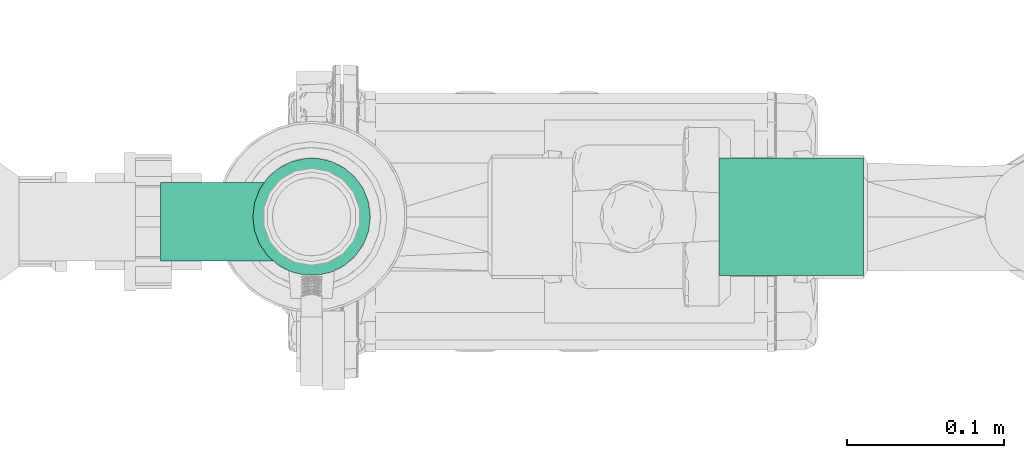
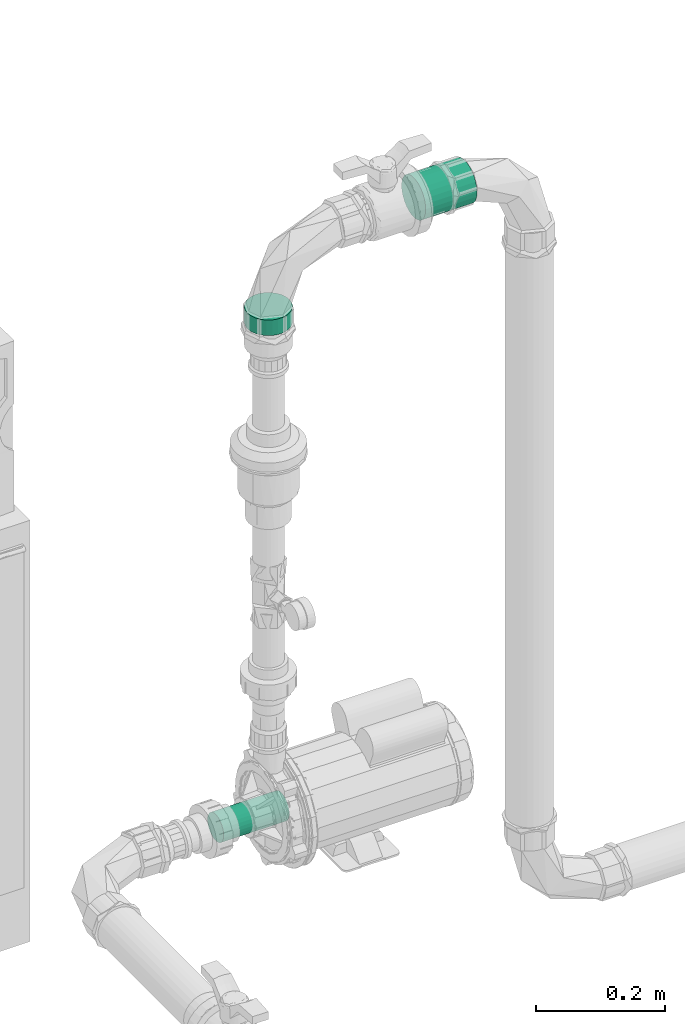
# One storey, part 68 of 166: 3 flow segments.
"""IFC2X3 building model written with IfcOpenShell, lengths in metres."""

from ifc_helpers import new_model, entity, si_unit, converted_unit, direction, frame, frame_2d, origin, origin_2d_with_axis, place, context, subcontext, project, spatial, circle, extrude, type_object, element, save


model = new_model("IFC2X3")

# Units and contexts
model_context = context("Model", 3, precision=1e-05, world=origin(), true_north=direction((6.123233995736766e-17, 1.0)))
body_context = subcontext(model_context, "Body", "Model", "MODEL_VIEW")
ifc_project = project(units=[si_unit("LENGTHUNIT", "METRE"), converted_unit("PLANEANGLEUNIT", "DEGREE", entity("IfcPlaneAngleMeasure", 0.017453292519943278), si_unit("PLANEANGLEUNIT", "RADIAN"), dimensions=[0, 0, 0, 0, 0, 0, 0]), si_unit("AREAUNIT", "SQUARE_METRE")], contexts=[model_context])

# Site, building, storey
site_placement = place(None, origin())
site = spatial("IfcSite", under=ifc_project, at=site_placement, Name="Default", CompositionType="ELEMENT")
building_placement = place(site_placement, origin())
building = spatial("IfcBuilding", under=site, at=building_placement, Name="CASA DE ACOLHIDA PARA IDOSOS", CompositionType="ELEMENT")
storey_placement = place(building_placement, frame((0.0, 0.0, -1.7499999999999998)))
storey = spatial("IfcBuildingStorey", under=building, at=storey_placement, Name="IMPLANTAÇÃO DRENAGEM", CompositionType="ELEMENT", Elevation=-1.7499999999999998)

# Flow segments
pipe_segment_type = type_object("IfcPipeSegmentType", Name="Tipos de tubos:AF_Tubo Marrom Soldável", PredefinedType="NOTDEFINED")
flow_segment_1_placement = place(storey_placement, origin())
element("IfcFlowSegment", 1, at=flow_segment_1_placement, inside=storey, type_object=pipe_segment_type, Name="Tipos de tubos:AF_Tubo Marrom Soldável", ObjectType="Tipos de tubos:AF_Tubo Marrom Soldável", context=body_context, shape_type="SweptSolid", body=[
    extrude(circle(Radius=0.025, at=frame_2d((0.0, -2.707167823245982e-16), x_axis=(1.0, 0.0))), frame((-60.86715026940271, 7.048917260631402, 0.13340000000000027), z_axis=(1.0, 0.0, 0.0), x_axis=(0.0, 1.0, 0.0)), (0.0, 0.0, 1.0), 0.11783727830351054),
])
flow_segment_2_placement = place(storey_placement, origin())
element("IfcFlowSegment", 2, at=flow_segment_2_placement, inside=storey, type_object=pipe_segment_type, Name="Tipos de tubos:AF_Tubo Marrom Soldável", ObjectType="Tipos de tubos:AF_Tubo Marrom Soldável", context=body_context, shape_type="SweptSolid", body=[
    extrude(circle(Radius=0.037500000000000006, at=origin_2d_with_axis()), frame((-60.51065765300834, 7.052060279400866, 1.1999999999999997), z_axis=(1.0, 0.0, 0.0), x_axis=(0.0, -1.0, 0.0)), (0.0, 0.0, 1.0), 0.09213466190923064),
])
flow_segment_3_placement = place(storey_placement, origin())
element("IfcFlowSegment", 3, at=flow_segment_3_placement, inside=storey, type_object=pipe_segment_type, Name="Tipos de tubos:AF_Tubo Marrom Soldável", ObjectType="Tipos de tubos:AF_Tubo Marrom Soldável", context=body_context, shape_type="SweptSolid", body=[
    extrude(circle(Radius=0.037500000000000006, at=origin_2d_with_axis()), frame((-60.770762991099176, 7.052060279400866, 1.055222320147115)), (0.0, 0.0, 1.0), 0.029517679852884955),
])

save(model, "model.ifc")
